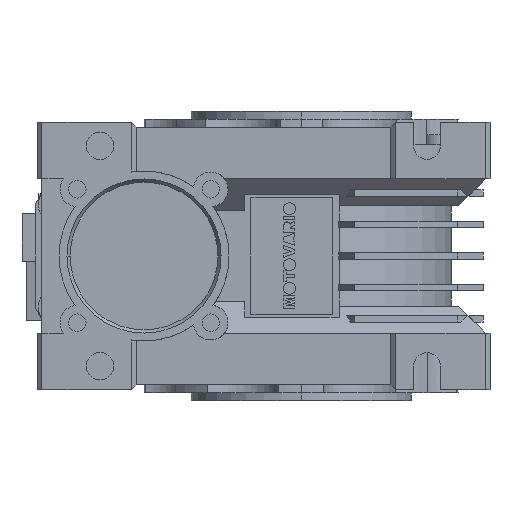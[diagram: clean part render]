
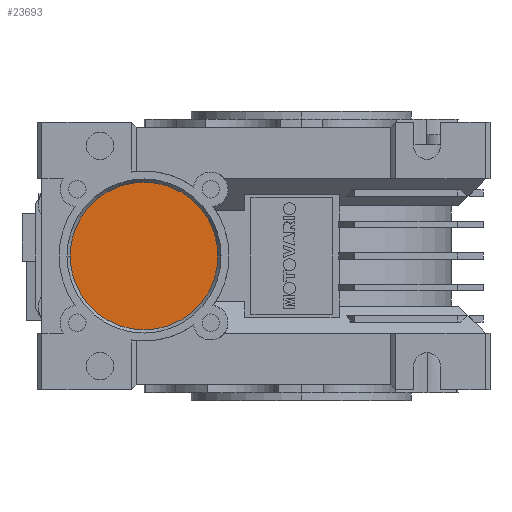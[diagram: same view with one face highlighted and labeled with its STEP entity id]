
A CAD part, left-side view. The second image highlights one B-rep face of the part: STEP entity #23693.
In plain terms, the highlighted planar face has unit normal (-1, 0, 0).
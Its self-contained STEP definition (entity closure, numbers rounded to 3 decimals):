
#23665 = EDGE_CURVE('',#23666,#23668,#23670,.T.);
#23666 = VERTEX_POINT('',#23667);
#23667 = CARTESIAN_POINT('',(-58.5,26.5,0.));
#23668 = VERTEX_POINT('',#23669);
#23669 = CARTESIAN_POINT('',(-58.5,73.5,0.));
#23670 = CIRCLE('',#23671,23.5);
#23671 = AXIS2_PLACEMENT_3D('',#23672,#23673,#23674);
#23672 = CARTESIAN_POINT('',(-58.5,50.,0.));
#23673 = DIRECTION('',(-1.,0.,0.));
#23674 = DIRECTION('',(0.,-1.,0.));
#23693 = ADVANCED_FACE('',(#23694),#23704,.F.);
#23694 = FACE_BOUND('',#23695,.T.);
#23695 = EDGE_LOOP('',(#23696,#23697));
#23696 = ORIENTED_EDGE('',*,*,#23665,.T.);
#23697 = ORIENTED_EDGE('',*,*,#23698,.T.);
#23698 = EDGE_CURVE('',#23668,#23666,#23699,.T.);
#23699 = CIRCLE('',#23700,23.5);
#23700 = AXIS2_PLACEMENT_3D('',#23701,#23702,#23703);
#23701 = CARTESIAN_POINT('',(-58.5,50.,0.));
#23702 = DIRECTION('',(-1.,0.,0.));
#23703 = DIRECTION('',(0.,-1.,0.));
#23704 = PLANE('',#23705);
#23705 = AXIS2_PLACEMENT_3D('',#23706,#23707,#23708);
#23706 = CARTESIAN_POINT('',(-58.5,38.25,0.));
#23707 = DIRECTION('',(1.,0.,0.));
#23708 = DIRECTION('',(0.,1.,0.));
